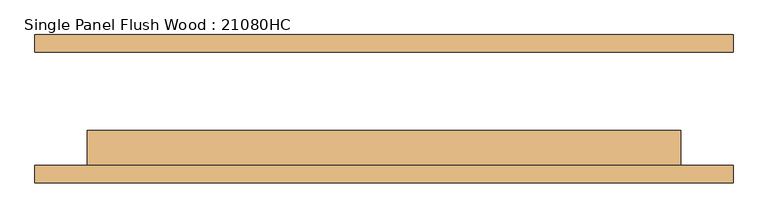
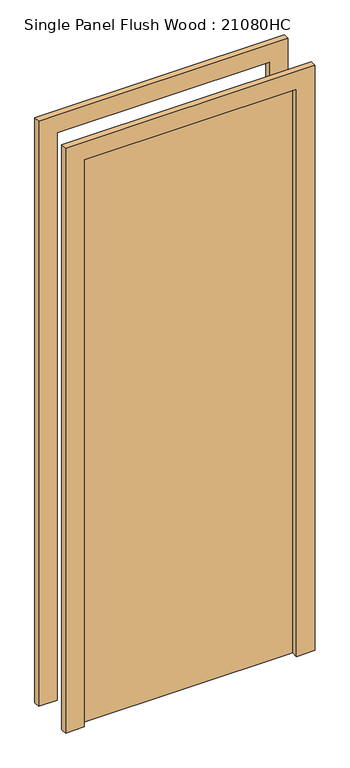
"""IFC4 building model written with IfcOpenShell, lengths in millimetres: door geometry, Single Panel Flush Wood : 21080HC."""

from ifc_helpers import new_model, si_unit, frame, origin, origin_with_axes, place, context, project, spatial, polyline, outline, extrude, source, transform, mapped, element, save


def single_panel_flush_wood_21080hc_af2d7ff4(model_context):
    return source(origin(), model_context, "Body", "SweptSolid", [
        extrude(outline(polyline([(2514.6, -508.0), (0.0, -508.0), (0.0, -431.8), (2438.4, -431.8), (2438.4, 431.8), (0.0, 431.8), (0.0, 508.0), (2514.6, 508.0), (2514.6, -508.0)])), frame((0.0, -107.95, 0.0), z_axis=(0.0, 1.0, 0.0), x_axis=(0.0, 0.0, 1.0)), (0.0, 0.0, 1.0), 25.4),
        extrude(outline(polyline([(2514.6, 508.0), (2514.6, -508.0), (0.0, -508.0), (0.0, -431.8), (2438.4, -431.8), (2438.4, 431.8), (0.0, 431.8), (0.0, 508.0), (2514.6, 508.0)])), frame((0.0, 82.55, 0.0), z_axis=(0.0, 1.0, 0.0), x_axis=(0.0, 0.0, 1.0)), (0.0, 0.0, 1.0), 25.4),
        extrude(outline(polyline([(431.8, -31.75), (431.8, -82.55), (-431.8, -82.55), (-431.8, -31.75), (431.8, -31.75)])), origin_with_axes(), (0.0, 0.0, 1.0), 2438.4),
    ])


if __name__ == "__main__":
    model = new_model("IFC4")
    model_context = context("Model", 3, world=origin())
    ifc_project = project(units=[si_unit("LENGTHUNIT", "METRE", prefix="MILLI")], contexts=[model_context])
    site = spatial("IfcSite", under=ifc_project)
    building = spatial("IfcBuilding", under=site)
    placement = place(None, origin())
    single_panel_flush_wood_21080hc_shape = single_panel_flush_wood_21080hc_af2d7ff4(model_context)
    element("IfcDoor", 1, ObjectType="Single Panel Flush Wood : 21080HC", at=placement, inside=building, context=model_context, shape_type="MappedRepresentation", body=[
        mapped(single_panel_flush_wood_21080hc_shape, transform((0.0, 0.0, 0.0), x_axis=(1.0, 0.0, 0.0), y_axis=(0.0, 1.0, 0.0), z_axis=(0.0, 0.0, 1.0))),
    ])
    save(model, "model.ifc")
